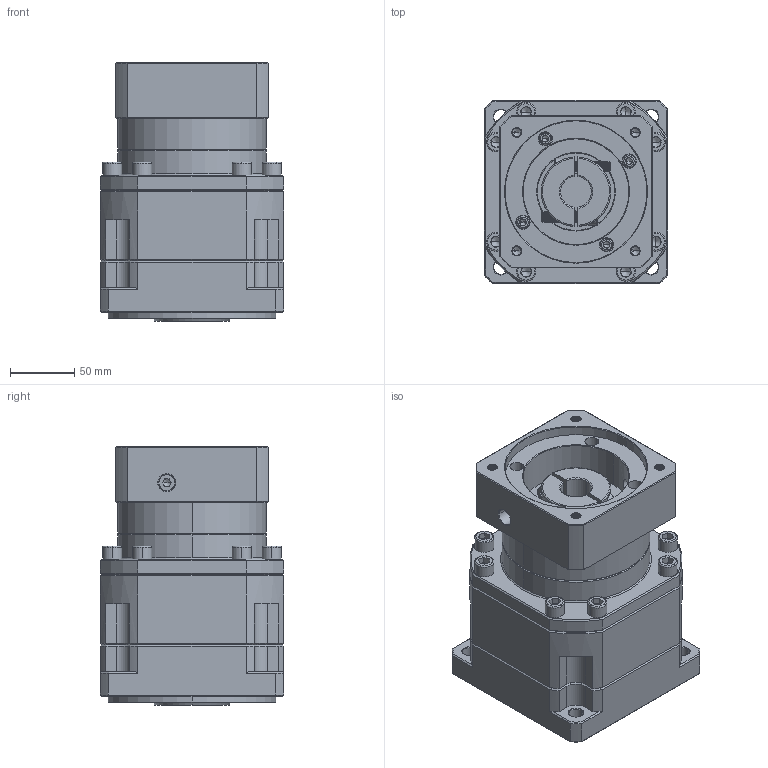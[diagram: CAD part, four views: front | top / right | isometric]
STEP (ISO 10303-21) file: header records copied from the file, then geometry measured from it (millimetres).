
FILE_DESCRIPTION (( 'STEP AP214' ), '1' );
FILE_NAME ('ZB142A-K35-L2-P2-24-110-130-M8.step', '2023-09-02T02:54:06', ( '' ), ( '' ), 'SwSTEP 2.0', 'SolidWorks 2016', '' );
FILE_SCHEMA (( 'AUTOMOTIVE_DESIGN' ));
Length unit declared in the file: millimetre
Products named in the file (1): ZB142A-K35-L2-P2-24-110-130-M8
Bounding box: 142 x 142 x 200.7 mm (x, y, z)
Volume: 2781519.6 mm3; surface area: 233372.1 mm2
Topology: 6 solids, 6 shells, 2484 faces, 6495 edges, 4136 vertices
Faces by surface type: plane 1198, cylinder 453, bspline 398, cone 379, torus 56
Entity records: 129026 total; most frequent: CARTESIAN_POINT 43716, ORIENTED_EDGE 12886, DIRECTION 10594, EDGE_CURVE 6443, LINE 4148, VECTOR 4148, VERTEX_POINT 4136, AXIS2_PLACEMENT_3D 3223
